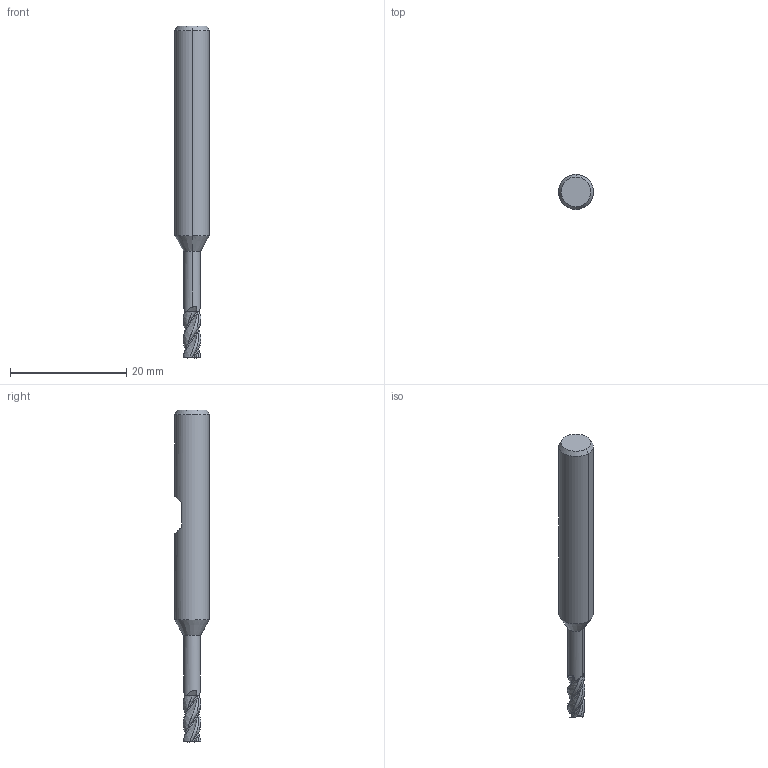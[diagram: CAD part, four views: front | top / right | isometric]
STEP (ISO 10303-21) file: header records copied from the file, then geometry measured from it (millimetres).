
FILE_DESCRIPTION(('no description'),'unknown implementation level');
FILE_NAME('solidUuKPq9cNK8lzAN9rpWtB3nF1tOQ_1.STP',' ',('CIMSOURCE GmbH'),('CADClick - KiM GmbH - www.kimweb.de'),'unknown preprocess','ACIS','unknown authorization');
FILE_SCHEMA(('automotive_design'));
Length unit declared in the file: millimetre
Products named in the file (2): NOCUT; CUT
Bounding box: 6 x 6 x 57 mm (x, y, z)
Volume: 1134.6 mm3; surface area: 1004.1 mm2
Topology: 2 solids, 2 shells, 125 faces, 350 edges, 228 vertices
Faces by surface type: bspline 48, plane 27, cone 22, cylinder 16, revolution 12
Entity records: 18684 total; most frequent: CARTESIAN_POINT 12005, STYLED_ITEM 705, PRESENTATION_STYLE_ASSIGNMENT 705, COLOUR_RGB 705, ORIENTED_EDGE 700, DIRECTION 380, EDGE_CURVE 350, CURVE_STYLE 350
